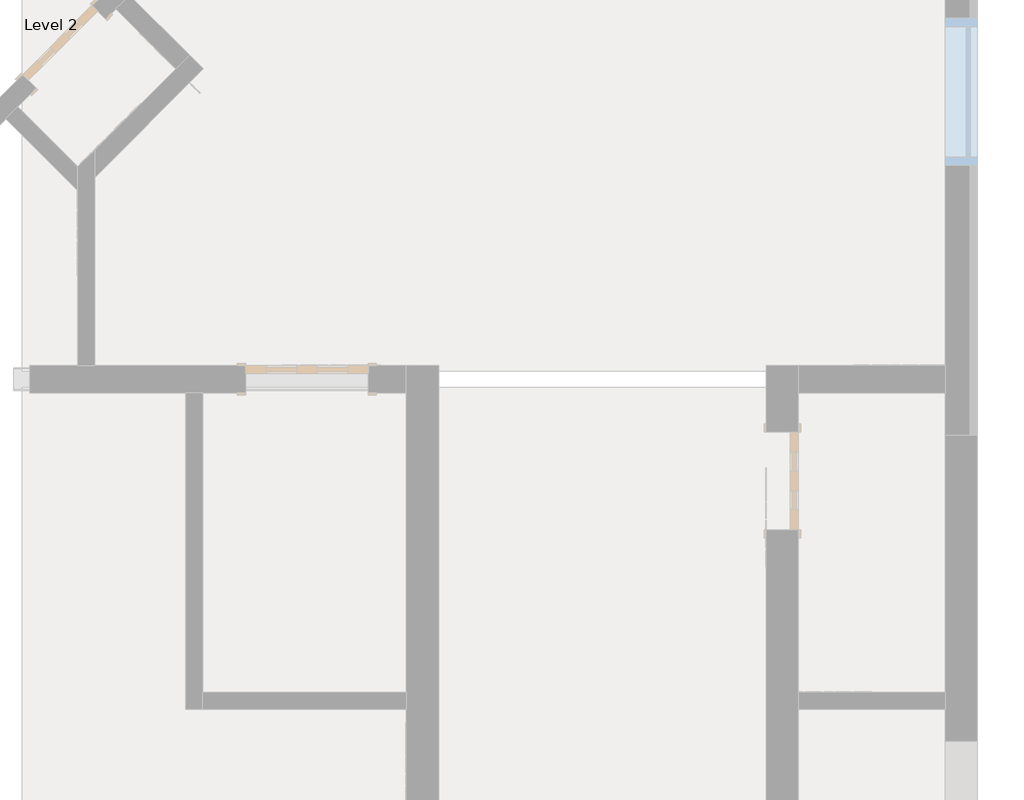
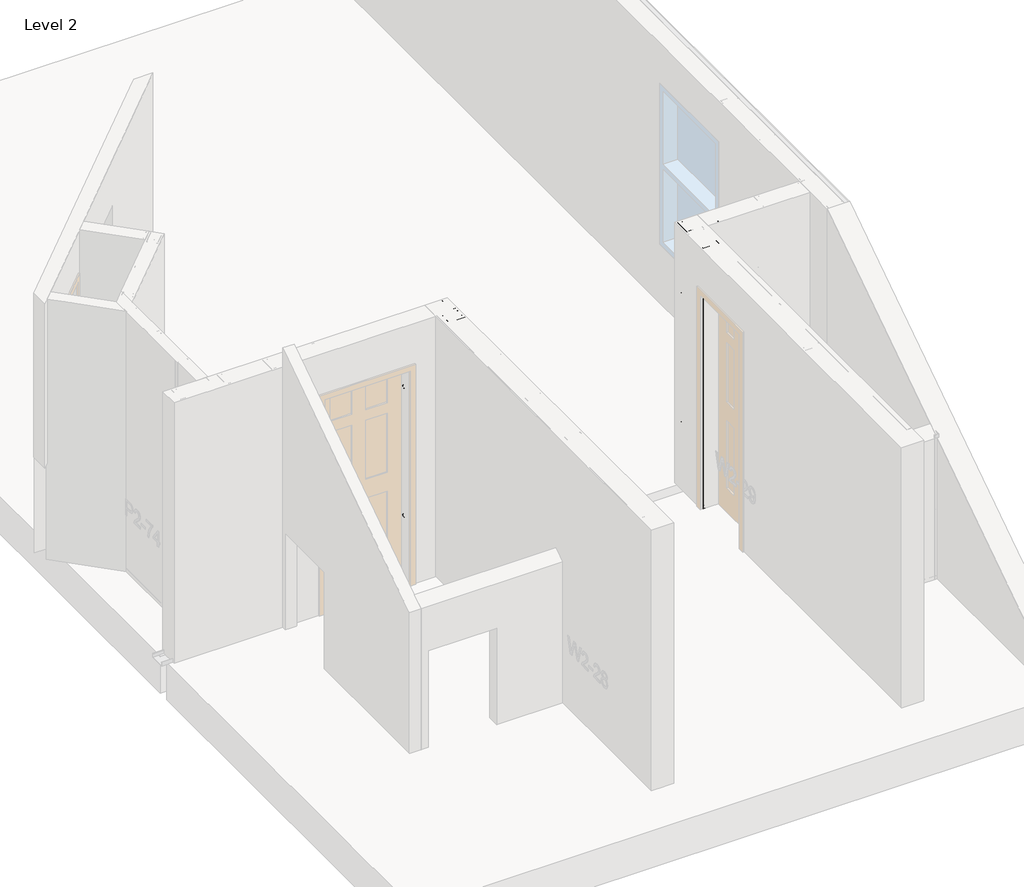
# One storey, part 22 of 46: 7 columns, 1 beam.
"""IFC4 building model written with IfcOpenShell, lengths in millimetres."""

from ifc_helpers import new_model, si_unit, point, frame, origin, place, context, project, spatial, circle_curve, ellipse_curve, trimmed, transform, mapped, element, save
from ifc_brep_helpers import plane_surface, extruded_surface, advanced_brep
from components import beam_550nf150_43_b33204f9, column_550nf150_43_e978d052

model = new_model("IFC4")

# Units and contexts
model_context = context("Model", 3, world=origin())
ifc_project = project(units=[si_unit("LENGTHUNIT", "METRE", prefix="MILLI")], contexts=[model_context])

# Site, building, storey
site = spatial("IfcSite", under=ifc_project)
building = spatial("IfcBuilding", under=site)
storey = spatial("IfcBuildingStorey", under=building, Name="Level 2", Elevation=3060.7)

# Beam
placement = place(None, origin())
beam_550nf150_43_shape = beam_550nf150_43_b33204f9(model_context)
element("IfcBeam", 1, ObjectType="BIMSF-SSMA-S : 550NF150-43", at=placement, inside=storey, context=model_context, shape_type="MappedRepresentation", body=[
    mapped(beam_550nf150_43_shape, transform((-4254.6288349, 6255.670971, 3076.575), x_axis=(0.0, -1.0000000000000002, 0.0), y_axis=(0.0, 0.0, -1.0000000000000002), z_axis=(1.0000000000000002, 0.0, 0.0))),
])

# Columns
element("IfcColumn", 2, ObjectType="BIMSF-SSMA-S-Column : 550NF150-33", at=placement, inside=storey, context=model_context, shape_type="AdvancedBrep", body=[
    advanced_brep(
    [(-6814.4725849, 6385.052221, 3061.5929687), (-6814.4725849, 6524.752221, 3061.5929687), (-6776.3725849, 6524.752221, 3061.5929687), (-6776.3725849, 6519.0947052, 3061.5929687), (-6777.2549007, 6519.0947052, 3061.5929687), (-6777.2549007, 6523.8699052, 3061.5929687), (-6813.5902691, 6523.8699052, 3061.5929687), (-6813.5902691, 6385.9345367, 3061.5929687), (-6777.2549007, 6385.9345367, 3061.5929687), (-6777.2549007, 6390.7097367, 3061.5929687), (-6776.3725849, 6390.7097367, 3061.5929687), (-6776.3725849, 6385.052221, 3061.5929687), (-6814.4725849, 6385.052221, 5523.6070313), (-6814.4725849, 6524.752221, 5523.6070313), (-6814.4725849, 6467.602221, 3671.1929687), (-6814.4725849, 6442.202221, 3671.1929688), (-6814.4725849, 6467.602221, 4890.3929687), (-6814.4725849, 6442.202221, 4890.3929687), (-6776.3725849, 6524.752221, 5523.6070313), (-6776.3725849, 6519.0947052, 5523.6070313), (-6777.2549007, 6519.0947052, 5523.6070313), (-6777.2549007, 6523.8699052, 5523.6070313), (-6813.5902691, 6523.8699052, 5523.6070313), (-6813.5902691, 6385.9345367, 5523.6070313), (-6813.5902691, 6442.202221, 3671.1929688), (-6813.5902691, 6467.602221, 3671.1929688), (-6813.5902691, 6442.202221, 4890.3929687), (-6813.5902691, 6467.602221, 4890.3929687), (-6777.2549007, 6385.9345367, 5523.6070313), (-6777.2549007, 6390.7097367, 5523.6070313), (-6776.3725849, 6390.7097367, 5523.6070313), (-6776.3725849, 6385.052221, 5523.6070313)],
    [
        (0, 1),
        (1, 2),
        (2, 3),
        (3, 4),
        (4, 5),
        (5, 6),
        (6, 7),
        (7, 8),
        (8, 9),
        (9, 10),
        (10, 11),
        (11, 0),
        (0, 12),
        (12, 13),
        (13, 1),
        (14, 15, circle_curve(frame((-6814.4725849, 6454.902221, 3671.1929687), z_axis=(1.0, 0.0, 0.0), x_axis=(0.0, 1.0, 0.0)), 12.7)),
        (15, 14, circle_curve(frame((-6814.4725849, 6454.902221, 3671.1929687), z_axis=(1.0, 0.0, 0.0), x_axis=(0.0, 1.0, 0.0)), 12.7)),
        (16, 17, circle_curve(frame((-6814.4725849, 6454.902221, 4890.3929687), z_axis=(1.0, 0.0, 0.0), x_axis=(0.0, 1.0, 0.0)), 12.7)),
        (17, 16, circle_curve(frame((-6814.4725849, 6454.902221, 4890.3929687), z_axis=(1.0, 0.0, 0.0), x_axis=(0.0, 1.0, 0.0)), 12.7)),
        (13, 18),
        (18, 2),
        (18, 19),
        (19, 3),
        (19, 20),
        (20, 4),
        (20, 21),
        (21, 5),
        (21, 22),
        (22, 6),
        (22, 23),
        (23, 7),
        (24, 25, circle_curve(frame((-6813.5902691, 6454.902221, 3671.1929688), z_axis=(-1.0, 0.0, 0.0), x_axis=(0.0, 1.0, 0.0)), 12.7)),
        (25, 24, circle_curve(frame((-6813.5902691, 6454.902221, 3671.1929688), z_axis=(-1.0, 0.0, 0.0), x_axis=(0.0, 1.0, 0.0)), 12.7)),
        (26, 27, circle_curve(frame((-6813.5902691, 6454.902221, 4890.3929687), z_axis=(-1.0, 0.0, 0.0), x_axis=(0.0, 1.0, 0.0)), 12.7)),
        (27, 26, circle_curve(frame((-6813.5902691, 6454.902221, 4890.3929687), z_axis=(-1.0, 0.0, 0.0), x_axis=(0.0, 1.0, 0.0)), 12.7)),
        (23, 28),
        (28, 8),
        (28, 29),
        (29, 9),
        (29, 30),
        (30, 10),
        (30, 31),
        (31, 11),
        (31, 12),
        (24, 15),
        (14, 25),
        (26, 17),
        (16, 27),
    ],
    [
        plane_surface(frame((-6814.4725849, 6385.052221, 3061.5929687), z_axis=(0.0, 0.0, -1.0), x_axis=(-1.0, 0.0, 0.0))),
        plane_surface(frame((-6814.4725849, 6524.752221, 5523.6070313), z_axis=(-1.0, 0.0, 0.0), x_axis=(0.0, 0.0, -1.0))),
        plane_surface(frame((-6776.3725849, 6524.752221, 5523.6070313), z_axis=(0.0, 1.0, 0.0), x_axis=(0.0, 0.0, -1.0))),
        plane_surface(frame((-6776.3725849, 6519.0947052, 5523.6070313), z_axis=(1.0, 0.0, 0.0), x_axis=(0.0, 0.0, -1.0))),
        plane_surface(frame((-6777.2549007, 6519.0947052, 5523.6070313), z_axis=(0.0, -1.0, 0.0), x_axis=(0.0, 0.0, -1.0))),
        plane_surface(frame((-6777.2549007, 6523.8699052, 5523.6070313), z_axis=(-1.0, 0.0, 0.0), x_axis=(0.0, 0.0, -1.0))),
        plane_surface(frame((-6813.5902691, 6523.8699052, 5523.6070313), z_axis=(0.0, -1.0, 0.0), x_axis=(0.0, 0.0, -1.0))),
        plane_surface(frame((-6813.5902691, 6385.9345367, 5523.6070313), z_axis=(1.0, 0.0, 0.0), x_axis=(0.0, 0.0, -1.0))),
        plane_surface(frame((-6777.2549007, 6385.9345367, 5523.6070313), z_axis=(0.0, 1.0, 0.0), x_axis=(0.0, 0.0, -1.0))),
        plane_surface(frame((-6777.2549007, 6390.7097367, 5523.6070313), z_axis=(-1.0, 0.0, 0.0), x_axis=(0.0, 0.0, -1.0))),
        plane_surface(frame((-6776.3725849, 6390.7097367, 5523.6070313), z_axis=(0.0, 1.0, 0.0), x_axis=(0.0, 0.0, -1.0))),
        plane_surface(frame((-6776.3725849, 6385.052221, 5523.6070313), z_axis=(1.0, 0.0, 0.0), x_axis=(0.0, 0.0, -1.0))),
        plane_surface(frame((-6814.4725849, 6385.052221, 5523.6070313), z_axis=(0.0, -1.0, 0.0), x_axis=(0.0, 0.0, -1.0))),
        plane_surface(frame((-6814.4725849, 6385.052221, 5523.6070313), z_axis=(0.0, 0.0, 1.0), x_axis=(1.0, 0.0, 0.0))),
        extruded_surface(trimmed(ellipse_curve(frame((-4333.4085224, 6454.902221, 3671.1929688), z_axis=(-1.0, 0.0, 0.0), x_axis=(0.0, 1.0, 0.0)), 12.7, 12.7), [point((-4333.4085224, 6442.202221, 3671.1929688))], [point((-4333.4085224, 6467.602221, 3671.1929688))], True, "CARTESIAN"), (4924.028125, 0.0, 0.0), 4924.028125),
        extruded_surface(trimmed(ellipse_curve(frame((-4333.4085224, 6454.902221, 3671.1929688), z_axis=(-1.0, 0.0, 0.0), x_axis=(0.0, 1.0, 0.0)), 12.7, 12.7), [point((-4333.4085224, 6467.602221, 3671.1929688))], [point((-4333.4085224, 6442.202221, 3671.1929688))], True, "CARTESIAN"), (4924.028125, 0.0, 0.0), 4924.028125),
        extruded_surface(trimmed(ellipse_curve(frame((-4333.4085224, 6454.902221, 4890.3929687), z_axis=(-1.0, 0.0, 0.0), x_axis=(0.0, 1.0, 0.0)), 12.7, 12.7), [point((-4333.4085224, 6442.202221, 4890.3929687))], [point((-4333.4085224, 6467.602221, 4890.3929687))], True, "CARTESIAN"), (4924.028125, 0.0, 0.0), 4924.028125),
        extruded_surface(trimmed(ellipse_curve(frame((-4333.4085224, 6454.902221, 4890.3929687), z_axis=(-1.0, 0.0, 0.0), x_axis=(0.0, 1.0, 0.0)), 12.7, 12.7), [point((-4333.4085224, 6467.602221, 4890.3929687))], [point((-4333.4085224, 6442.202221, 4890.3929687))], True, "CARTESIAN"), (4924.028125, 0.0, 0.0), 4924.028125),
    ],
    [
        (0, [[1, 2, 3, 4, 5, 6, 7, 8, 9, 10, 11, 12]]),
        (1, [[-1, 13, 14, 15], [16, 17], [18, 19]]),
        (2, [[-2, -15, 20, 21]]),
        (3, [[-3, -21, 22, 23]]),
        (4, [[-4, -23, 24, 25]]),
        (5, [[-5, -25, 26, 27]]),
        (6, [[-6, -27, 28, 29]]),
        (7, [[-7, -29, 30, 31], [32, 33], [34, 35]]),
        (8, [[-8, -31, 36, 37]]),
        (9, [[-9, -37, 38, 39]]),
        (10, [[-10, -39, 40, 41]]),
        (11, [[-11, -41, 42, 43]]),
        (12, [[-12, -43, 44, -13]]),
        (13, [[-14, -44, -42, -40, -38, -36, -30, -28, -26, -24, -22, -20]]),
        (14, [[45, -16, 46, -32]]),
        (15, [[-45, -33, -46, -17]]),
        (16, [[47, -18, 48, -34]]),
        (17, [[-47, -35, -48, -19]]),
    ],
),
])
element("IfcColumn", 3, ObjectType="BIMSF-SSMA-S-Column : 550NF150-43", at=placement, inside=storey, context=model_context, shape_type="AdvancedBrep", body=[
    advanced_brep(
    [(-4324.4788349, 6385.052221, 3061.5929687), (-4324.4788349, 6524.752221, 3061.5929687), (-4286.3788349, 6524.752221, 3061.5929687), (-4286.3788349, 6518.8273367, 3061.5929687), (-4287.5285191, 6518.8273367, 3061.5929687), (-4287.5285191, 6523.6025367, 3061.5929687), (-4323.3291507, 6523.6025367, 3061.5929687), (-4323.3291507, 6386.2019052, 3061.5929687), (-4287.5285191, 6386.2019052, 3061.5929687), (-4287.5285191, 6390.9771052, 3061.5929687), (-4286.3788349, 6390.9771052, 3061.5929687), (-4286.3788349, 6385.052221, 3061.5929687), (-4324.4788349, 6385.052221, 5523.6070313), (-4324.4788349, 6524.752221, 5523.6070313), (-4324.4788349, 6467.602221, 3671.1929688), (-4324.4788349, 6442.202221, 3671.1929688), (-4324.4788349, 6467.602221, 4890.3929687), (-4324.4788349, 6442.202221, 4890.3929687), (-4286.3788349, 6524.752221, 5523.6070313), (-4286.3788349, 6518.8273367, 5523.6070313), (-4287.5285191, 6518.8273367, 5523.6070313), (-4287.5285191, 6523.6025367, 5523.6070313), (-4323.3291507, 6523.6025367, 5523.6070313), (-4323.3291507, 6386.2019052, 5523.6070313), (-4323.3291507, 6442.202221, 3671.1929687), (-4323.3291507, 6467.602221, 3671.1929687), (-4323.3291507, 6442.202221, 4890.3929687), (-4323.3291507, 6467.602221, 4890.3929687), (-4287.5285191, 6386.2019052, 5523.6070313), (-4287.5285191, 6390.9771052, 5523.6070313), (-4286.3788349, 6390.9771052, 5523.6070313), (-4286.3788349, 6385.052221, 5523.6070313)],
    [
        (0, 1),
        (1, 2),
        (2, 3),
        (3, 4),
        (4, 5),
        (5, 6),
        (6, 7),
        (7, 8),
        (8, 9),
        (9, 10),
        (10, 11),
        (11, 0),
        (0, 12),
        (12, 13),
        (13, 1),
        (14, 15, circle_curve(frame((-4324.4788349, 6454.902221, 3671.1929687), z_axis=(1.0, 0.0, 0.0), x_axis=(0.0, 1.0, 0.0)), 12.7)),
        (15, 14, circle_curve(frame((-4324.4788349, 6454.902221, 3671.1929687), z_axis=(1.0, 0.0, 0.0), x_axis=(0.0, 1.0, 0.0)), 12.7)),
        (16, 17, circle_curve(frame((-4324.4788349, 6454.902221, 4890.3929687), z_axis=(1.0, 0.0, 0.0), x_axis=(0.0, 1.0, 0.0)), 12.7)),
        (17, 16, circle_curve(frame((-4324.4788349, 6454.902221, 4890.3929687), z_axis=(1.0, 0.0, 0.0), x_axis=(0.0, 1.0, 0.0)), 12.7)),
        (13, 18),
        (18, 2),
        (18, 19),
        (19, 3),
        (19, 20),
        (20, 4),
        (20, 21),
        (21, 5),
        (21, 22),
        (22, 6),
        (22, 23),
        (23, 7),
        (24, 25, circle_curve(frame((-4323.3291507, 6454.902221, 3671.1929687), z_axis=(-1.0, 0.0, 0.0), x_axis=(0.0, 1.0, 0.0)), 12.7)),
        (25, 24, circle_curve(frame((-4323.3291507, 6454.902221, 3671.1929687), z_axis=(-1.0, 0.0, 0.0), x_axis=(0.0, 1.0, 0.0)), 12.7)),
        (26, 27, circle_curve(frame((-4323.3291507, 6454.902221, 4890.3929687), z_axis=(-1.0, 0.0, 0.0), x_axis=(0.0, 1.0, 0.0)), 12.7)),
        (27, 26, circle_curve(frame((-4323.3291507, 6454.902221, 4890.3929687), z_axis=(-1.0, 0.0, 0.0), x_axis=(0.0, 1.0, 0.0)), 12.7)),
        (23, 28),
        (28, 8),
        (28, 29),
        (29, 9),
        (29, 30),
        (30, 10),
        (30, 31),
        (31, 11),
        (31, 12),
        (24, 15),
        (14, 25),
        (26, 17),
        (16, 27),
    ],
    [
        plane_surface(frame((-4324.4788349, 6385.052221, 3061.5929687), z_axis=(0.0, 0.0, -1.0), x_axis=(-1.0, 0.0, 0.0))),
        plane_surface(frame((-4324.4788349, 6524.752221, 5523.6070313), z_axis=(-1.0, 0.0, 0.0), x_axis=(0.0, 0.0, -1.0))),
        plane_surface(frame((-4286.3788349, 6524.752221, 5523.6070313), z_axis=(0.0, 1.0, 0.0), x_axis=(0.0, 0.0, -1.0))),
        plane_surface(frame((-4286.3788349, 6518.8273367, 5523.6070313), z_axis=(1.0, 0.0, 0.0), x_axis=(0.0, 0.0, -1.0))),
        plane_surface(frame((-4287.5285191, 6518.8273367, 5523.6070313), z_axis=(0.0, -1.0, 0.0), x_axis=(0.0, 0.0, -1.0))),
        plane_surface(frame((-4287.5285191, 6523.6025367, 5523.6070313), z_axis=(-1.0, 0.0, 0.0), x_axis=(0.0, 0.0, -1.0))),
        plane_surface(frame((-4323.3291507, 6523.6025367, 5523.6070313), z_axis=(0.0, -1.0, 0.0), x_axis=(0.0, 0.0, -1.0))),
        plane_surface(frame((-4323.3291507, 6386.2019052, 5523.6070313), z_axis=(1.0, 0.0, 0.0), x_axis=(0.0, 0.0, -1.0))),
        plane_surface(frame((-4287.5285191, 6386.2019052, 5523.6070313), z_axis=(0.0, 1.0, 0.0), x_axis=(0.0, 0.0, -1.0))),
        plane_surface(frame((-4287.5285191, 6390.9771052, 5523.6070313), z_axis=(-1.0, 0.0, 0.0), x_axis=(0.0, 0.0, -1.0))),
        plane_surface(frame((-4286.3788349, 6390.9771052, 5523.6070313), z_axis=(0.0, 1.0, 0.0), x_axis=(0.0, 0.0, -1.0))),
        plane_surface(frame((-4286.3788349, 6385.052221, 5523.6070313), z_axis=(1.0, 0.0, 0.0), x_axis=(0.0, 0.0, -1.0))),
        plane_surface(frame((-4324.4788349, 6385.052221, 5523.6070313), z_axis=(0.0, -1.0, 0.0), x_axis=(0.0, 0.0, -1.0))),
        plane_surface(frame((-4324.4788349, 6385.052221, 5523.6070313), z_axis=(0.0, 0.0, 1.0), x_axis=(1.0, 0.0, 0.0))),
        extruded_surface(trimmed(ellipse_curve(frame((-1843.4147724, 6454.902221, 3671.1929688), z_axis=(-1.0, 0.0, 0.0), x_axis=(0.0, 1.0, 0.0)), 12.7, 12.7), [point((-1843.4147724, 6442.202221, 3671.1929688))], [point((-1843.4147724, 6467.602221, 3671.1929688))], True, "CARTESIAN"), (4924.028125, 0.0, 0.0), 4924.028125),
        extruded_surface(trimmed(ellipse_curve(frame((-1843.4147724, 6454.902221, 3671.1929688), z_axis=(-1.0, 0.0, 0.0), x_axis=(0.0, 1.0, 0.0)), 12.7, 12.7), [point((-1843.4147724, 6467.602221, 3671.1929688))], [point((-1843.4147724, 6442.202221, 3671.1929688))], True, "CARTESIAN"), (4924.028125, 0.0, 0.0), 4924.028125),
        extruded_surface(trimmed(ellipse_curve(frame((-1843.4147724, 6454.902221, 4890.3929687), z_axis=(-1.0, 0.0, 0.0), x_axis=(0.0, 1.0, 0.0)), 12.7, 12.7), [point((-1843.4147724, 6442.202221, 4890.3929687))], [point((-1843.4147724, 6467.602221, 4890.3929687))], True, "CARTESIAN"), (4924.028125, 0.0, 0.0), 4924.028125),
        extruded_surface(trimmed(ellipse_curve(frame((-1843.4147724, 6454.902221, 4890.3929687), z_axis=(-1.0, 0.0, 0.0), x_axis=(0.0, 1.0, 0.0)), 12.7, 12.7), [point((-1843.4147724, 6467.602221, 4890.3929687))], [point((-1843.4147724, 6442.202221, 4890.3929687))], True, "CARTESIAN"), (4924.028125, 0.0, 0.0), 4924.028125),
    ],
    [
        (0, [[1, 2, 3, 4, 5, 6, 7, 8, 9, 10, 11, 12]]),
        (1, [[-1, 13, 14, 15], [16, 17], [18, 19]]),
        (2, [[-2, -15, 20, 21]]),
        (3, [[-3, -21, 22, 23]]),
        (4, [[-4, -23, 24, 25]]),
        (5, [[-5, -25, 26, 27]]),
        (6, [[-6, -27, 28, 29]]),
        (7, [[-7, -29, 30, 31], [32, 33], [34, 35]]),
        (8, [[-8, -31, 36, 37]]),
        (9, [[-9, -37, 38, 39]]),
        (10, [[-10, -39, 40, 41]]),
        (11, [[-11, -41, 42, 43]]),
        (12, [[-12, -43, 44, -13]]),
        (13, [[-14, -44, -42, -40, -38, -36, -30, -28, -26, -24, -22, -20]]),
        (14, [[45, -16, 46, -32]]),
        (15, [[-45, -33, -46, -17]]),
        (16, [[47, -18, 48, -34]]),
        (17, [[-47, -35, -48, -19]]),
    ],
),
])
element("IfcColumn", 4, ObjectType="BIMSF-SSMA-S-Column : 550NF150-43", at=placement, inside=storey, context=model_context, shape_type="AdvancedBrep", body=[
    advanced_brep(
    [(-4043.4913349, 6385.052221, 3061.5929687), (-4043.4913349, 6524.752221, 3061.5929687), (-4005.3913349, 6524.752221, 3061.5929687), (-4005.3913349, 6518.8273367, 3061.5929687), (-4006.5410191, 6518.8273367, 3061.5929687), (-4006.5410191, 6523.6025367, 3061.5929687), (-4042.3416507, 6523.6025367, 3061.5929687), (-4042.3416507, 6386.2019052, 3061.5929687), (-4006.5410191, 6386.2019052, 3061.5929687), (-4006.5410191, 6390.9771052, 3061.5929687), (-4005.3913349, 6390.9771052, 3061.5929687), (-4005.3913349, 6385.052221, 3061.5929687), (-4043.4913349, 6385.052221, 5523.6070313), (-4043.4913349, 6524.752221, 5523.6070313), (-4043.4913349, 6467.602221, 3671.1929688), (-4043.4913349, 6442.202221, 3671.1929688), (-4043.4913349, 6467.602221, 4890.3929687), (-4043.4913349, 6442.202221, 4890.3929687), (-4005.3913349, 6524.752221, 5523.6070313), (-4005.3913349, 6518.8273367, 5523.6070313), (-4006.5410191, 6518.8273367, 5523.6070313), (-4006.5410191, 6523.6025367, 5523.6070313), (-4042.3416507, 6523.6025367, 5523.6070313), (-4042.3416507, 6386.2019052, 5523.6070313), (-4042.3416507, 6442.202221, 3671.1929687), (-4042.3416507, 6467.602221, 3671.1929687), (-4042.3416507, 6442.202221, 4890.3929687), (-4042.3416507, 6467.602221, 4890.3929687), (-4006.5410191, 6386.2019052, 5523.6070313), (-4006.5410191, 6390.9771052, 5523.6070313), (-4005.3913349, 6390.9771052, 5523.6070313), (-4005.3913349, 6385.052221, 5523.6070313)],
    [
        (0, 1),
        (1, 2),
        (2, 3),
        (3, 4),
        (4, 5),
        (5, 6),
        (6, 7),
        (7, 8),
        (8, 9),
        (9, 10),
        (10, 11),
        (11, 0),
        (0, 12),
        (12, 13),
        (13, 1),
        (14, 15, circle_curve(frame((-4043.4913349, 6454.902221, 3671.1929688), z_axis=(1.0, 0.0, 0.0), x_axis=(0.0, 1.0, 0.0)), 12.7)),
        (15, 14, circle_curve(frame((-4043.4913349, 6454.902221, 3671.1929688), z_axis=(1.0, 0.0, 0.0), x_axis=(0.0, 1.0, 0.0)), 12.7)),
        (16, 17, circle_curve(frame((-4043.4913349, 6454.902221, 4890.3929688), z_axis=(1.0, 0.0, 0.0), x_axis=(0.0, 1.0, 0.0)), 12.7)),
        (17, 16, circle_curve(frame((-4043.4913349, 6454.902221, 4890.3929688), z_axis=(1.0, 0.0, 0.0), x_axis=(0.0, 1.0, 0.0)), 12.7)),
        (13, 18),
        (18, 2),
        (18, 19),
        (19, 3),
        (19, 20),
        (20, 4),
        (20, 21),
        (21, 5),
        (21, 22),
        (22, 6),
        (22, 23),
        (23, 7),
        (24, 25, circle_curve(frame((-4042.3416507, 6454.902221, 3671.1929688), z_axis=(-1.0, 0.0, 0.0), x_axis=(0.0, 1.0, 0.0)), 12.7)),
        (25, 24, circle_curve(frame((-4042.3416507, 6454.902221, 3671.1929688), z_axis=(-1.0, 0.0, 0.0), x_axis=(0.0, 1.0, 0.0)), 12.7)),
        (26, 27, circle_curve(frame((-4042.3416507, 6454.902221, 4890.3929687), z_axis=(-1.0, 0.0, 0.0), x_axis=(0.0, 1.0, 0.0)), 12.7)),
        (27, 26, circle_curve(frame((-4042.3416507, 6454.902221, 4890.3929687), z_axis=(-1.0, 0.0, 0.0), x_axis=(0.0, 1.0, 0.0)), 12.7)),
        (23, 28),
        (28, 8),
        (28, 29),
        (29, 9),
        (29, 30),
        (30, 10),
        (30, 31),
        (31, 11),
        (31, 12),
        (24, 15),
        (14, 25),
        (26, 17),
        (16, 27),
    ],
    [
        plane_surface(frame((-4043.4913349, 6385.052221, 3061.5929687), z_axis=(0.0, 0.0, -1.0), x_axis=(-1.0, 0.0, 0.0))),
        plane_surface(frame((-4043.4913349, 6524.752221, 5523.6070313), z_axis=(-1.0, 0.0, 0.0), x_axis=(0.0, 0.0, -1.0))),
        plane_surface(frame((-4005.3913349, 6524.752221, 5523.6070313), z_axis=(0.0, 1.0, 0.0), x_axis=(0.0, 0.0, -1.0))),
        plane_surface(frame((-4005.3913349, 6518.8273367, 5523.6070313), z_axis=(1.0, 0.0, 0.0), x_axis=(0.0, 0.0, -1.0))),
        plane_surface(frame((-4006.5410191, 6518.8273367, 5523.6070313), z_axis=(0.0, -1.0, 0.0), x_axis=(0.0, 0.0, -1.0))),
        plane_surface(frame((-4006.5410191, 6523.6025367, 5523.6070313), z_axis=(-1.0, 0.0, 0.0), x_axis=(0.0, 0.0, -1.0))),
        plane_surface(frame((-4042.3416507, 6523.6025367, 5523.6070313), z_axis=(0.0, -1.0, 0.0), x_axis=(0.0, 0.0, -1.0))),
        plane_surface(frame((-4042.3416507, 6386.2019052, 5523.6070313), z_axis=(1.0, 0.0, 0.0), x_axis=(0.0, 0.0, -1.0))),
        plane_surface(frame((-4006.5410191, 6386.2019052, 5523.6070313), z_axis=(0.0, 1.0, 0.0), x_axis=(0.0, 0.0, -1.0))),
        plane_surface(frame((-4006.5410191, 6390.9771052, 5523.6070313), z_axis=(-1.0, 0.0, 0.0), x_axis=(0.0, 0.0, -1.0))),
        plane_surface(frame((-4005.3913349, 6390.9771052, 5523.6070313), z_axis=(0.0, 1.0, 0.0), x_axis=(0.0, 0.0, -1.0))),
        plane_surface(frame((-4005.3913349, 6385.052221, 5523.6070313), z_axis=(1.0, 0.0, 0.0), x_axis=(0.0, 0.0, -1.0))),
        plane_surface(frame((-4043.4913349, 6385.052221, 5523.6070313), z_axis=(0.0, -1.0, 0.0), x_axis=(0.0, 0.0, -1.0))),
        plane_surface(frame((-4043.4913349, 6385.052221, 5523.6070313), z_axis=(0.0, 0.0, 1.0), x_axis=(1.0, 0.0, 0.0))),
        extruded_surface(trimmed(ellipse_curve(frame((-1562.4272724, 6454.902221, 3671.1929688), z_axis=(-1.0, 0.0, 0.0), x_axis=(0.0, 1.0, 0.0)), 12.7, 12.7), [point((-1562.4272724, 6442.202221, 3671.1929688))], [point((-1562.4272724, 6467.602221, 3671.1929688))], True, "CARTESIAN"), (4924.028125, 0.0, 0.0), 4924.028125),
        extruded_surface(trimmed(ellipse_curve(frame((-1562.4272724, 6454.902221, 3671.1929688), z_axis=(-1.0, 0.0, 0.0), x_axis=(0.0, 1.0, 0.0)), 12.7, 12.7), [point((-1562.4272724, 6467.602221, 3671.1929688))], [point((-1562.4272724, 6442.202221, 3671.1929688))], True, "CARTESIAN"), (4924.028125, 0.0, 0.0), 4924.028125),
        extruded_surface(trimmed(ellipse_curve(frame((-1562.4272724, 6454.902221, 4890.3929687), z_axis=(-1.0, 0.0, 0.0), x_axis=(0.0, 1.0, 0.0)), 12.7, 12.7), [point((-1562.4272724, 6442.202221, 4890.3929687))], [point((-1562.4272724, 6467.602221, 4890.3929687))], True, "CARTESIAN"), (4924.028125, 0.0, 0.0), 4924.028125),
        extruded_surface(trimmed(ellipse_curve(frame((-1562.4272724, 6454.902221, 4890.3929687), z_axis=(-1.0, 0.0, 0.0), x_axis=(0.0, 1.0, 0.0)), 12.7, 12.7), [point((-1562.4272724, 6467.602221, 4890.3929687))], [point((-1562.4272724, 6442.202221, 4890.3929687))], True, "CARTESIAN"), (4924.028125, 0.0, 0.0), 4924.028125),
    ],
    [
        (0, [[1, 2, 3, 4, 5, 6, 7, 8, 9, 10, 11, 12]]),
        (1, [[-1, 13, 14, 15], [16, 17], [18, 19]]),
        (2, [[-2, -15, 20, 21]]),
        (3, [[-3, -21, 22, 23]]),
        (4, [[-4, -23, 24, 25]]),
        (5, [[-5, -25, 26, 27]]),
        (6, [[-6, -27, 28, 29]]),
        (7, [[-7, -29, 30, 31], [32, 33], [34, 35]]),
        (8, [[-8, -31, 36, 37]]),
        (9, [[-9, -37, 38, 39]]),
        (10, [[-10, -39, 40, 41]]),
        (11, [[-11, -41, 42, 43]]),
        (12, [[-12, -43, 44, -13]]),
        (13, [[-14, -44, -42, -40, -38, -36, -30, -28, -26, -24, -22, -20]]),
        (14, [[45, -16, 46, -32]]),
        (15, [[-45, -33, -46, -17]]),
        (16, [[47, -18, 48, -34]]),
        (17, [[-47, -35, -48, -19]]),
    ],
),
])
element("IfcColumn", 5, ObjectType="BIMSF-SSMA-S-Column : 550NF150-43", at=placement, inside=storey, context=model_context, shape_type="AdvancedBrep", body=[
    advanced_brep(
    [(-6391.4038349, 6524.752221, 3061.5929687), (-6391.4038349, 6385.052221, 3061.5929687), (-6429.5038349, 6385.052221, 3061.5929687), (-6429.5038349, 6390.9771052, 3061.5929687), (-6428.3541507, 6390.9771052, 3061.5929687), (-6428.3541507, 6386.2019052, 3061.5929687), (-6392.5535191, 6386.2019052, 3061.5929687), (-6392.5535191, 6523.6025367, 3061.5929687), (-6428.3541507, 6523.6025367, 3061.5929687), (-6428.3541507, 6518.8273367, 3061.5929687), (-6429.5038349, 6518.8273367, 3061.5929687), (-6429.5038349, 6524.752221, 3061.5929687), (-6391.4038349, 6524.752221, 5523.6070313), (-6391.4038349, 6385.052221, 5523.6070313), (-6391.4038349, 6442.202221, 3671.1929687), (-6391.4038349, 6467.602221, 3671.1929688), (-6391.4038349, 6442.202221, 4890.3929687), (-6391.4038349, 6467.602221, 4890.3929687), (-6429.5038349, 6385.052221, 5523.6070313), (-6429.5038349, 6390.9771052, 5523.6070313), (-6428.3541507, 6390.9771052, 5523.6070313), (-6428.3541507, 6386.2019052, 5523.6070313), (-6392.5535191, 6386.2019052, 5523.6070313), (-6392.5535191, 6523.6025367, 5523.6070313), (-6392.5535191, 6467.602221, 3671.1929688), (-6392.5535191, 6442.202221, 3671.1929687), (-6392.5535191, 6467.602221, 4890.3929687), (-6392.5535191, 6442.202221, 4890.3929687), (-6428.3541507, 6523.6025367, 5523.6070313), (-6428.3541507, 6518.8273367, 5523.6070313), (-6429.5038349, 6518.8273367, 5523.6070313), (-6429.5038349, 6524.752221, 5523.6070313)],
    [
        (0, 1),
        (1, 2),
        (2, 3),
        (3, 4),
        (4, 5),
        (5, 6),
        (6, 7),
        (7, 8),
        (8, 9),
        (9, 10),
        (10, 11),
        (11, 0),
        (0, 12),
        (12, 13),
        (13, 1),
        (14, 15, circle_curve(frame((-6391.4038349, 6454.902221, 3671.1929688), z_axis=(-1.0, 0.0, 0.0), x_axis=(0.0, -1.0, 0.0)), 12.7)),
        (15, 14, circle_curve(frame((-6391.4038349, 6454.902221, 3671.1929688), z_axis=(-1.0, 0.0, 0.0), x_axis=(0.0, -1.0, 0.0)), 12.7)),
        (16, 17, circle_curve(frame((-6391.4038349, 6454.902221, 4890.3929687), z_axis=(-1.0, 0.0, 0.0), x_axis=(0.0, -1.0, 0.0)), 12.7)),
        (17, 16, circle_curve(frame((-6391.4038349, 6454.902221, 4890.3929687), z_axis=(-1.0, 0.0, 0.0), x_axis=(0.0, -1.0, 0.0)), 12.7)),
        (13, 18),
        (18, 2),
        (18, 19),
        (19, 3),
        (19, 20),
        (20, 4),
        (20, 21),
        (21, 5),
        (21, 22),
        (22, 6),
        (22, 23),
        (23, 7),
        (24, 25, circle_curve(frame((-6392.5535191, 6454.902221, 3671.1929688), z_axis=(1.0, 0.0, 0.0), x_axis=(0.0, -1.0, 0.0)), 12.7)),
        (25, 24, circle_curve(frame((-6392.5535191, 6454.902221, 3671.1929687), z_axis=(1.0, 0.0, 0.0), x_axis=(0.0, -1.0, 0.0)), 12.7)),
        (26, 27, circle_curve(frame((-6392.5535191, 6454.902221, 4890.3929687), z_axis=(1.0, 0.0, 0.0), x_axis=(0.0, -1.0, 0.0)), 12.7)),
        (27, 26, circle_curve(frame((-6392.5535191, 6454.902221, 4890.3929687), z_axis=(1.0, 0.0, 0.0), x_axis=(0.0, -1.0, 0.0)), 12.7)),
        (23, 28),
        (28, 8),
        (28, 29),
        (29, 9),
        (29, 30),
        (30, 10),
        (30, 31),
        (31, 11),
        (31, 12),
        (24, 15),
        (14, 25),
        (26, 17),
        (16, 27),
    ],
    [
        plane_surface(frame((-6391.4038349, 6524.752221, 3061.5929687), z_axis=(0.0, 0.0, -1.0), x_axis=(1.0, 0.0, 0.0))),
        plane_surface(frame((-6391.4038349, 6385.052221, 5523.6070313), z_axis=(1.0, 0.0, 0.0), x_axis=(0.0, 0.0, -1.0))),
        plane_surface(frame((-6429.5038349, 6385.052221, 5523.6070313), z_axis=(0.0, -1.0, 0.0), x_axis=(0.0, 0.0, -1.0))),
        plane_surface(frame((-6429.5038349, 6390.9771052, 5523.6070313), z_axis=(-1.0, 0.0, 0.0), x_axis=(0.0, 0.0, -1.0))),
        plane_surface(frame((-6428.3541507, 6390.9771052, 5523.6070313), z_axis=(0.0, 1.0, 0.0), x_axis=(0.0, 0.0, -1.0))),
        plane_surface(frame((-6428.3541507, 6386.2019052, 5523.6070313), z_axis=(1.0, 0.0, 0.0), x_axis=(0.0, 0.0, -1.0))),
        plane_surface(frame((-6392.5535191, 6386.2019052, 5523.6070313), z_axis=(0.0, 1.0, 0.0), x_axis=(0.0, 0.0, -1.0))),
        plane_surface(frame((-6392.5535191, 6523.6025367, 5523.6070313), z_axis=(-1.0, 0.0, 0.0), x_axis=(0.0, 0.0, -1.0))),
        plane_surface(frame((-6428.3541507, 6523.6025367, 5523.6070313), z_axis=(0.0, -1.0, 0.0), x_axis=(0.0, 0.0, -1.0))),
        plane_surface(frame((-6428.3541507, 6518.8273367, 5523.6070313), z_axis=(1.0, 0.0, 0.0), x_axis=(0.0, 0.0, -1.0))),
        plane_surface(frame((-6429.5038349, 6518.8273367, 5523.6070313), z_axis=(0.0, -1.0, 0.0), x_axis=(0.0, 0.0, -1.0))),
        plane_surface(frame((-6429.5038349, 6524.752221, 5523.6070313), z_axis=(-1.0, 0.0, 0.0), x_axis=(0.0, 0.0, -1.0))),
        plane_surface(frame((-6391.4038349, 6524.752221, 5523.6070313), z_axis=(0.0, 1.0, 0.0), x_axis=(0.0, 0.0, -1.0))),
        plane_surface(frame((-6391.4038349, 6524.752221, 5523.6070313), z_axis=(0.0, 0.0, 1.0), x_axis=(-1.0, 0.0, 0.0))),
        extruded_surface(trimmed(ellipse_curve(frame((-8872.4678974, 6454.902221, 3671.1929688), z_axis=(1.0, 0.0, 0.0), x_axis=(0.0, -1.0, 0.0)), 12.7, 12.7), [point((-8872.4678974, 6467.602221, 3671.1929688))], [point((-8872.4678974, 6442.202221, 3671.1929688))], True, "CARTESIAN"), (-4924.028125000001, 0.0, 0.0), 4924.028125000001),
        extruded_surface(trimmed(ellipse_curve(frame((-8872.4678974, 6454.902221, 3671.1929688), z_axis=(1.0, 0.0, 0.0), x_axis=(0.0, -1.0, 0.0)), 12.7, 12.7), [point((-8872.4678974, 6442.202221, 3671.1929688))], [point((-8872.4678974, 6467.602221, 3671.1929688))], True, "CARTESIAN"), (-4924.028125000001, 0.0, 0.0), 4924.028125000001),
        extruded_surface(trimmed(ellipse_curve(frame((-8872.4678974, 6454.902221, 4890.3929687), z_axis=(1.0, 0.0, 0.0), x_axis=(0.0, -1.0, 0.0)), 12.7, 12.7), [point((-8872.4678974, 6467.602221, 4890.3929687))], [point((-8872.4678974, 6442.202221, 4890.3929687))], True, "CARTESIAN"), (-4924.028125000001, 0.0, 0.0), 4924.028125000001),
        extruded_surface(trimmed(ellipse_curve(frame((-8872.4678974, 6454.902221, 4890.3929687), z_axis=(1.0, 0.0, 0.0), x_axis=(0.0, -1.0, 0.0)), 12.7, 12.7), [point((-8872.4678974, 6442.202221, 4890.3929687))], [point((-8872.4678974, 6467.602221, 4890.3929687))], True, "CARTESIAN"), (-4924.028125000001, 0.0, 0.0), 4924.028125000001),
    ],
    [
        (0, [[1, 2, 3, 4, 5, 6, 7, 8, 9, 10, 11, 12]]),
        (1, [[-1, 13, 14, 15], [16, 17], [18, 19]]),
        (2, [[-2, -15, 20, 21]]),
        (3, [[-3, -21, 22, 23]]),
        (4, [[-4, -23, 24, 25]]),
        (5, [[-5, -25, 26, 27]]),
        (6, [[-6, -27, 28, 29]]),
        (7, [[-7, -29, 30, 31], [32, 33], [34, 35]]),
        (8, [[-8, -31, 36, 37]]),
        (9, [[-9, -37, 38, 39]]),
        (10, [[-10, -39, 40, 41]]),
        (11, [[-11, -41, 42, 43]]),
        (12, [[-12, -43, 44, -13]]),
        (13, [[-14, -44, -42, -40, -38, -36, -30, -28, -26, -24, -22, -20]]),
        (14, [[45, -16, 46, -32]]),
        (15, [[-45, -33, -46, -17]]),
        (16, [[47, -18, 48, -34]]),
        (17, [[-47, -35, -48, -19]]),
    ],
),
])
element("IfcColumn", 6, ObjectType="BIMSF-SSMA-S-Column : 550NF150-43", at=placement, inside=storey, context=model_context, shape_type="AdvancedBrep", body=[
    advanced_brep(
    [(-6531.1038349, 6385.052221, 3061.5929687), (-6391.4038349, 6385.052221, 3061.5929687), (-6391.4038349, 6346.952221, 3061.5929687), (-6397.3287191, 6346.952221, 3061.5929687), (-6397.3287191, 6348.1019052, 3061.5929687), (-6392.5535191, 6348.1019052, 3061.5929687), (-6392.5535191, 6383.9025367, 3061.5929687), (-6529.9541507, 6383.9025367, 3061.5929687), (-6529.9541507, 6348.1019052, 3061.5929687), (-6525.1789507, 6348.1019052, 3061.5929687), (-6525.1789507, 6346.952221, 3061.5929687), (-6531.1038349, 6346.952221, 3061.5929687), (-6531.1038349, 6385.052221, 5523.6070313), (-6391.4038349, 6385.052221, 5523.6070313), (-6448.5538349, 6385.052221, 3671.1929688), (-6473.9538349, 6385.052221, 3671.1929688), (-6448.5538349, 6385.052221, 4890.3929687), (-6473.9538349, 6385.052221, 4890.3929687), (-6391.4038349, 6346.952221, 5523.6070313), (-6397.3287191, 6346.952221, 5523.6070313), (-6397.3287191, 6348.1019052, 5523.6070313), (-6392.5535191, 6348.1019052, 5523.6070313), (-6392.5535191, 6383.9025367, 5523.6070313), (-6529.9541507, 6383.9025367, 5523.6070313), (-6473.9538349, 6383.9025367, 3671.1929688), (-6448.5538349, 6383.9025367, 3671.1929688), (-6473.9538349, 6383.9025367, 4890.3929687), (-6448.5538349, 6383.9025367, 4890.3929687), (-6529.9541507, 6348.1019052, 5523.6070313), (-6525.1789507, 6348.1019052, 5523.6070313), (-6525.1789507, 6346.952221, 5523.6070313), (-6531.1038349, 6346.952221, 5523.6070313)],
    [
        (0, 1),
        (1, 2),
        (2, 3),
        (3, 4),
        (4, 5),
        (5, 6),
        (6, 7),
        (7, 8),
        (8, 9),
        (9, 10),
        (10, 11),
        (11, 0),
        (0, 12),
        (12, 13),
        (13, 1),
        (14, 15, circle_curve(frame((-6461.2538349, 6385.052221, 3671.1929687), z_axis=(0.0, -1.0, 0.0), x_axis=(1.0, 0.0, 0.0)), 12.7)),
        (15, 14, circle_curve(frame((-6461.2538349, 6385.052221, 3671.1929687), z_axis=(0.0, -1.0, 0.0), x_axis=(1.0, 0.0, 0.0)), 12.7)),
        (16, 17, circle_curve(frame((-6461.2538349, 6385.052221, 4890.3929687), z_axis=(0.0, -1.0, 0.0), x_axis=(1.0, 0.0, 0.0)), 12.7)),
        (17, 16, circle_curve(frame((-6461.2538349, 6385.052221, 4890.3929687), z_axis=(0.0, -1.0, 0.0), x_axis=(1.0, 0.0, 0.0)), 12.7)),
        (13, 18),
        (18, 2),
        (18, 19),
        (19, 3),
        (19, 20),
        (20, 4),
        (20, 21),
        (21, 5),
        (21, 22),
        (22, 6),
        (22, 23),
        (23, 7),
        (24, 25, circle_curve(frame((-6461.2538349, 6383.9025367, 3671.1929687), z_axis=(0.0, 1.0, 0.0), x_axis=(1.0, 0.0, 0.0)), 12.7)),
        (25, 24, circle_curve(frame((-6461.2538349, 6383.9025367, 3671.1929688), z_axis=(0.0, 1.0, 0.0), x_axis=(1.0, 0.0, 0.0)), 12.7)),
        (26, 27, circle_curve(frame((-6461.2538349, 6383.9025367, 4890.3929687), z_axis=(0.0, 1.0, 0.0), x_axis=(1.0, 0.0, 0.0)), 12.7)),
        (27, 26, circle_curve(frame((-6461.2538349, 6383.9025367, 4890.3929687), z_axis=(0.0, 1.0, 0.0), x_axis=(1.0, 0.0, 0.0)), 12.7)),
        (23, 28),
        (28, 8),
        (28, 29),
        (29, 9),
        (29, 30),
        (30, 10),
        (30, 31),
        (31, 11),
        (31, 12),
        (24, 15),
        (14, 25),
        (26, 17),
        (16, 27),
    ],
    [
        plane_surface(frame((-6531.1038349, 6385.052221, 3061.5929687), z_axis=(0.0, 0.0, -1.0), x_axis=(0.0, 1.0, 0.0))),
        plane_surface(frame((-6391.4038349, 6385.052221, 5523.6070313), z_axis=(0.0, 1.0, 0.0), x_axis=(0.0, 0.0, -1.0))),
        plane_surface(frame((-6391.4038349, 6346.952221, 5523.6070313), z_axis=(1.0, 0.0, 0.0), x_axis=(0.0, 0.0, -1.0))),
        plane_surface(frame((-6397.3287191, 6346.952221, 5523.6070313), z_axis=(0.0, -1.0, 0.0), x_axis=(0.0, 0.0, -1.0))),
        plane_surface(frame((-6397.3287191, 6348.1019052, 5523.6070313), z_axis=(-1.0, 0.0, 0.0), x_axis=(0.0, 0.0, -1.0))),
        plane_surface(frame((-6392.5535191, 6348.1019052, 5523.6070313), z_axis=(0.0, 1.0, 0.0), x_axis=(0.0, 0.0, -1.0))),
        plane_surface(frame((-6392.5535191, 6383.9025367, 5523.6070313), z_axis=(-1.0, 0.0, 0.0), x_axis=(0.0, 0.0, -1.0))),
        plane_surface(frame((-6529.9541507, 6383.9025367, 5523.6070313), z_axis=(0.0, -1.0, 0.0), x_axis=(0.0, 0.0, -1.0))),
        plane_surface(frame((-6529.9541507, 6348.1019052, 5523.6070313), z_axis=(1.0, 0.0, 0.0), x_axis=(0.0, 0.0, -1.0))),
        plane_surface(frame((-6525.1789507, 6348.1019052, 5523.6070313), z_axis=(0.0, 1.0, 0.0), x_axis=(0.0, 0.0, -1.0))),
        plane_surface(frame((-6525.1789507, 6346.952221, 5523.6070313), z_axis=(1.0, 0.0, 0.0), x_axis=(0.0, 0.0, -1.0))),
        plane_surface(frame((-6531.1038349, 6346.952221, 5523.6070313), z_axis=(0.0, -1.0, 0.0), x_axis=(0.0, 0.0, -1.0))),
        plane_surface(frame((-6531.1038349, 6385.052221, 5523.6070313), z_axis=(-1.0, 0.0, 0.0), x_axis=(0.0, 0.0, -1.0))),
        plane_surface(frame((-6531.1038349, 6385.052221, 5523.6070313), z_axis=(0.0, 0.0, 1.0), x_axis=(0.0, -1.0, 0.0))),
        extruded_surface(trimmed(ellipse_curve(frame((-6461.2538349, 3903.9881585, 3671.1929688), z_axis=(0.0, 1.0, 0.0), x_axis=(1.0, 0.0, 0.0)), 12.7, 12.7), [point((-6473.9538349, 3903.9881585, 3671.1929688))], [point((-6448.5538349, 3903.9881585, 3671.1929688))], True, "CARTESIAN"), (0.0, -4924.028125, 0.0), 4924.028125),
        extruded_surface(trimmed(ellipse_curve(frame((-6461.2538349, 3903.9881585, 3671.1929688), z_axis=(0.0, 1.0, 0.0), x_axis=(1.0, 0.0, 0.0)), 12.7, 12.7), [point((-6448.5538349, 3903.9881585, 3671.1929688))], [point((-6473.9538349, 3903.9881585, 3671.1929688))], True, "CARTESIAN"), (0.0, -4924.028125, 0.0), 4924.028125),
        extruded_surface(trimmed(ellipse_curve(frame((-6461.2538349, 3903.9881585, 4890.3929687), z_axis=(0.0, 1.0, 0.0), x_axis=(1.0, 0.0, 0.0)), 12.7, 12.7), [point((-6473.9538349, 3903.9881585, 4890.3929687))], [point((-6448.5538349, 3903.9881585, 4890.3929687))], True, "CARTESIAN"), (0.0, -4924.028125, 0.0), 4924.028125),
        extruded_surface(trimmed(ellipse_curve(frame((-6461.2538349, 3903.9881585, 4890.3929687), z_axis=(0.0, 1.0, 0.0), x_axis=(1.0, 0.0, 0.0)), 12.7, 12.7), [point((-6448.5538349, 3903.9881585, 4890.3929687))], [point((-6473.9538349, 3903.9881585, 4890.3929687))], True, "CARTESIAN"), (0.0, -4924.028125, 0.0), 4924.028125),
    ],
    [
        (0, [[1, 2, 3, 4, 5, 6, 7, 8, 9, 10, 11, 12]]),
        (1, [[-1, 13, 14, 15], [16, 17], [18, 19]]),
        (2, [[-2, -15, 20, 21]]),
        (3, [[-3, -21, 22, 23]]),
        (4, [[-4, -23, 24, 25]]),
        (5, [[-5, -25, 26, 27]]),
        (6, [[-6, -27, 28, 29]]),
        (7, [[-7, -29, 30, 31], [32, 33], [34, 35]]),
        (8, [[-8, -31, 36, 37]]),
        (9, [[-9, -37, 38, 39]]),
        (10, [[-10, -39, 40, 41]]),
        (11, [[-11, -41, 42, 43]]),
        (12, [[-12, -43, 44, -13]]),
        (13, [[-14, -44, -42, -40, -38, -36, -30, -28, -26, -24, -22, -20]]),
        (14, [[45, -16, 46, -32]]),
        (15, [[-45, -33, -46, -17]]),
        (16, [[47, -18, 48, -34]]),
        (17, [[-47, -35, -48, -19]]),
    ],
),
])
element("IfcColumn", 7, ObjectType="BIMSF-SSMA-S-Column : 550NF150-43", at=placement, inside=storey, context=model_context, shape_type="AdvancedBrep", body=[
    advanced_brep(
    [(-6391.4038349, 6243.764721, 3061.5929687), (-6531.1038349, 6243.764721, 3061.5929687), (-6531.1038349, 6281.864721, 3061.5929687), (-6525.1789507, 6281.864721, 3061.5929687), (-6525.1789507, 6280.7150367, 3061.5929687), (-6529.9541507, 6280.7150367, 3061.5929687), (-6529.9541507, 6244.9144052, 3061.5929687), (-6392.5535191, 6244.9144052, 3061.5929687), (-6392.5535191, 6280.7150367, 3061.5929687), (-6397.3287191, 6280.7150367, 3061.5929687), (-6397.3287191, 6281.864721, 3061.5929687), (-6391.4038349, 6281.864721, 3061.5929687), (-6391.4038349, 6243.764721, 5523.6070313), (-6531.1038349, 6243.764721, 5523.6070313), (-6473.9538349, 6243.764721, 3671.1929688), (-6448.5538349, 6243.764721, 3671.1929688), (-6473.9538349, 6243.764721, 4890.3929687), (-6448.5538349, 6243.764721, 4890.3929687), (-6531.1038349, 6281.864721, 5523.6070313), (-6525.1789507, 6281.864721, 5523.6070313), (-6525.1789507, 6280.7150367, 5523.6070313), (-6529.9541507, 6280.7150367, 5523.6070313), (-6529.9541507, 6244.9144052, 5523.6070313), (-6392.5535191, 6244.9144052, 5523.6070313), (-6448.5538349, 6244.9144052, 3671.1929688), (-6473.9538349, 6244.9144052, 3671.1929688), (-6448.5538349, 6244.9144052, 4890.3929688), (-6473.9538349, 6244.9144052, 4890.3929688), (-6392.5535191, 6280.7150367, 5523.6070313), (-6397.3287191, 6280.7150367, 5523.6070313), (-6397.3287191, 6281.864721, 5523.6070313), (-6391.4038349, 6281.864721, 5523.6070313)],
    [
        (0, 1),
        (1, 2),
        (2, 3),
        (3, 4),
        (4, 5),
        (5, 6),
        (6, 7),
        (7, 8),
        (8, 9),
        (9, 10),
        (10, 11),
        (11, 0),
        (0, 12),
        (12, 13),
        (13, 1),
        (14, 15, circle_curve(frame((-6461.2538349, 6243.764721, 3671.1929688), z_axis=(0.0, 1.0, 0.0), x_axis=(-1.0, 0.0, 0.0)), 12.7)),
        (15, 14, circle_curve(frame((-6461.2538349, 6243.764721, 3671.1929688), z_axis=(0.0, 1.0, 0.0), x_axis=(-1.0, 0.0, 0.0)), 12.7)),
        (16, 17, circle_curve(frame((-6461.2538349, 6243.764721, 4890.3929687), z_axis=(0.0, 1.0, 0.0), x_axis=(-1.0, 0.0, 0.0)), 12.7)),
        (17, 16, circle_curve(frame((-6461.2538349, 6243.764721, 4890.3929687), z_axis=(0.0, 1.0, 0.0), x_axis=(-1.0, 0.0, 0.0)), 12.7)),
        (13, 18),
        (18, 2),
        (18, 19),
        (19, 3),
        (19, 20),
        (20, 4),
        (20, 21),
        (21, 5),
        (21, 22),
        (22, 6),
        (22, 23),
        (23, 7),
        (24, 25, circle_curve(frame((-6461.2538349, 6244.9144052, 3671.1929687), z_axis=(0.0, -1.0, 0.0), x_axis=(-1.0, 0.0, 0.0)), 12.7)),
        (25, 24, circle_curve(frame((-6461.2538349, 6244.9144052, 3671.1929687), z_axis=(0.0, -1.0, 0.0), x_axis=(-1.0, 0.0, 0.0)), 12.7)),
        (26, 27, circle_curve(frame((-6461.2538349, 6244.9144052, 4890.3929687), z_axis=(0.0, -1.0, 0.0), x_axis=(-1.0, 0.0, 0.0)), 12.7)),
        (27, 26, circle_curve(frame((-6461.2538349, 6244.9144052, 4890.3929687), z_axis=(0.0, -1.0, 0.0), x_axis=(-1.0, 0.0, 0.0)), 12.7)),
        (23, 28),
        (28, 8),
        (28, 29),
        (29, 9),
        (29, 30),
        (30, 10),
        (30, 31),
        (31, 11),
        (31, 12),
        (24, 15),
        (14, 25),
        (26, 17),
        (16, 27),
    ],
    [
        plane_surface(frame((-6391.4038349, 6243.764721, 3061.5929687), z_axis=(0.0, 0.0, -1.0), x_axis=(0.0, -1.0, 0.0))),
        plane_surface(frame((-6531.1038349, 6243.764721, 5523.6070313), z_axis=(0.0, -1.0, 0.0), x_axis=(0.0, 0.0, -1.0))),
        plane_surface(frame((-6531.1038349, 6281.864721, 5523.6070313), z_axis=(-1.0, 0.0, 0.0), x_axis=(0.0, 0.0, -1.0))),
        plane_surface(frame((-6525.1789507, 6281.864721, 5523.6070313), z_axis=(0.0, 1.0, 0.0), x_axis=(0.0, 0.0, -1.0))),
        plane_surface(frame((-6525.1789507, 6280.7150367, 5523.6070313), z_axis=(1.0, 0.0, 0.0), x_axis=(0.0, 0.0, -1.0))),
        plane_surface(frame((-6529.9541507, 6280.7150367, 5523.6070313), z_axis=(0.0, -1.0, 0.0), x_axis=(0.0, 0.0, -1.0))),
        plane_surface(frame((-6529.9541507, 6244.9144052, 5523.6070313), z_axis=(1.0, 0.0, 0.0), x_axis=(0.0, 0.0, -1.0))),
        plane_surface(frame((-6392.5535191, 6244.9144052, 5523.6070313), z_axis=(0.0, 1.0, 0.0), x_axis=(0.0, 0.0, -1.0))),
        plane_surface(frame((-6392.5535191, 6280.7150367, 5523.6070313), z_axis=(-1.0, 0.0, 0.0), x_axis=(0.0, 0.0, -1.0))),
        plane_surface(frame((-6397.3287191, 6280.7150367, 5523.6070313), z_axis=(0.0, -1.0, 0.0), x_axis=(0.0, 0.0, -1.0))),
        plane_surface(frame((-6397.3287191, 6281.864721, 5523.6070313), z_axis=(-1.0, 0.0, 0.0), x_axis=(0.0, 0.0, -1.0))),
        plane_surface(frame((-6391.4038349, 6281.864721, 5523.6070313), z_axis=(0.0, 1.0, 0.0), x_axis=(0.0, 0.0, -1.0))),
        plane_surface(frame((-6391.4038349, 6243.764721, 5523.6070313), z_axis=(1.0, 0.0, 0.0), x_axis=(0.0, 0.0, -1.0))),
        plane_surface(frame((-6391.4038349, 6243.764721, 5523.6070313), z_axis=(0.0, 0.0, 1.0), x_axis=(0.0, 1.0, 0.0))),
        extruded_surface(trimmed(ellipse_curve(frame((-6461.2538349, 8724.8287835, 3671.1929688), z_axis=(0.0, -1.0, 0.0), x_axis=(-1.0, 0.0, 0.0)), 12.7, 12.7), [point((-6448.5538349, 8724.8287835, 3671.1929688))], [point((-6473.9538349, 8724.8287835, 3671.1929688))], True, "CARTESIAN"), (0.0, 4924.028125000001, 0.0), 4924.028125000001),
        extruded_surface(trimmed(ellipse_curve(frame((-6461.2538349, 8724.8287835, 3671.1929688), z_axis=(0.0, -1.0, 0.0), x_axis=(-1.0, 0.0, 0.0)), 12.7, 12.7), [point((-6473.9538349, 8724.8287835, 3671.1929688))], [point((-6448.5538349, 8724.8287835, 3671.1929688))], True, "CARTESIAN"), (0.0, 4924.028125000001, 0.0), 4924.028125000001),
        extruded_surface(trimmed(ellipse_curve(frame((-6461.2538349, 8724.8287835, 4890.3929687), z_axis=(0.0, -1.0, 0.0), x_axis=(-1.0, 0.0, 0.0)), 12.7, 12.7), [point((-6448.5538349, 8724.8287835, 4890.3929687))], [point((-6473.9538349, 8724.8287835, 4890.3929687))], True, "CARTESIAN"), (0.0, 4924.028125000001, 0.0), 4924.028125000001),
        extruded_surface(trimmed(ellipse_curve(frame((-6461.2538349, 8724.8287835, 4890.3929687), z_axis=(0.0, -1.0, 0.0), x_axis=(-1.0, 0.0, 0.0)), 12.7, 12.7), [point((-6473.9538349, 8724.8287835, 4890.3929687))], [point((-6448.5538349, 8724.8287835, 4890.3929687))], True, "CARTESIAN"), (0.0, 4924.028125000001, 0.0), 4924.028125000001),
    ],
    [
        (0, [[1, 2, 3, 4, 5, 6, 7, 8, 9, 10, 11, 12]]),
        (1, [[-1, 13, 14, 15], [16, 17], [18, 19]]),
        (2, [[-2, -15, 20, 21]]),
        (3, [[-3, -21, 22, 23]]),
        (4, [[-4, -23, 24, 25]]),
        (5, [[-5, -25, 26, 27]]),
        (6, [[-6, -27, 28, 29]]),
        (7, [[-7, -29, 30, 31], [32, 33], [34, 35]]),
        (8, [[-8, -31, 36, 37]]),
        (9, [[-9, -37, 38, 39]]),
        (10, [[-10, -39, 40, 41]]),
        (11, [[-11, -41, 42, 43]]),
        (12, [[-12, -43, 44, -13]]),
        (13, [[-14, -44, -42, -40, -38, -36, -30, -28, -26, -24, -22, -20]]),
        (14, [[45, -16, 46, -32]]),
        (15, [[-45, -33, -46, -17]]),
        (16, [[47, -18, 48, -34]]),
        (17, [[-47, -35, -48, -19]]),
    ],
),
])
column_550nf150_43_shape = column_550nf150_43_e978d052(model_context)
element("IfcColumn", 8, ObjectType="BIMSF-SSMA-S-Column : 550NF150-43", at=placement, inside=storey, context=model_context, shape_type="MappedRepresentation", body=[
    mapped(column_550nf150_43_shape, transform((-4265.3659598, 6138.2875087, 0.0), x_axis=(0.0, 1.0, 0.0), y_axis=(-1.0, 0.0, 0.0), z_axis=(0.0, 0.0, 1.0))),
])

save(model, "model.ifc")
